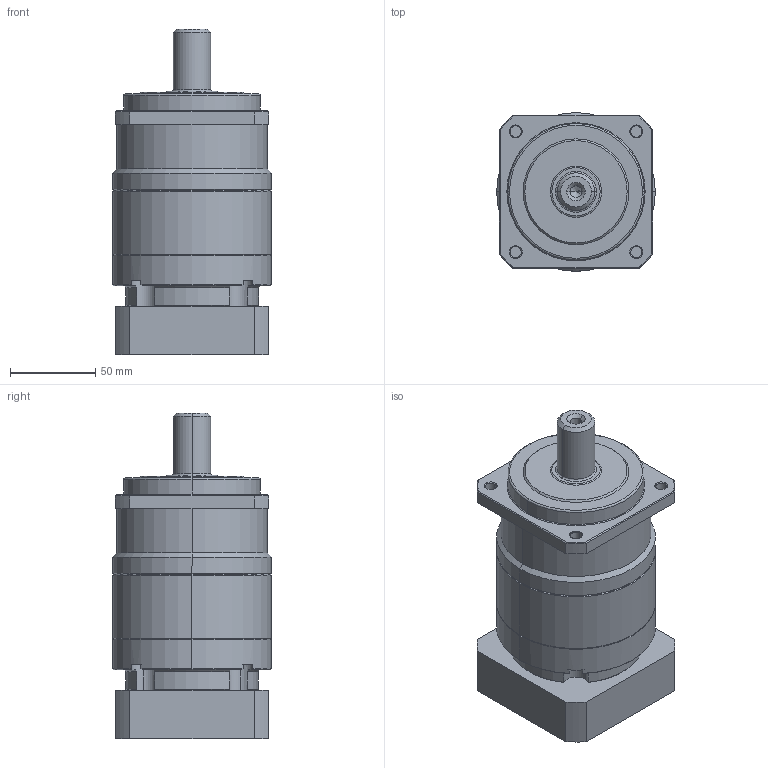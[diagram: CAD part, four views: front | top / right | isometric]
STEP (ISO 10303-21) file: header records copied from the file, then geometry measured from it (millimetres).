
FILE_DESCRIPTION (( 'STEP AP214' ), '1' );
FILE_NAME ('VRB-090-L2-S2-P1 19-70-90-M5.STEP', '2023-05-16T07:00:48', ( '微软用户' ), ( '微软中国' ), 'SwSTEP 2.0', 'SolidWorks 2018', '' );
FILE_SCHEMA (( 'AUTOMOTIVE_DESIGN' ));
Length unit declared in the file: millimetre
Products named in the file (1): VRB-090-L2-S2-P1 19-70-90-M5
Bounding box: 93 x 93 x 191 mm (x, y, z)
Volume: 963316.1 mm3; surface area: 84458.8 mm2
Topology: 1 solids, 1 shells, 161 faces, 389 edges, 244 vertices
Faces by surface type: cylinder 67, cone 45, plane 43, torus 6
Entity records: 4890 total; most frequent: CARTESIAN_POINT 952, DIRECTION 880, ORIENTED_EDGE 774, EDGE_CURVE 387, AXIS2_PLACEMENT_3D 366, VERTEX_POINT 244, CIRCLE 204, EDGE_LOOP 185
